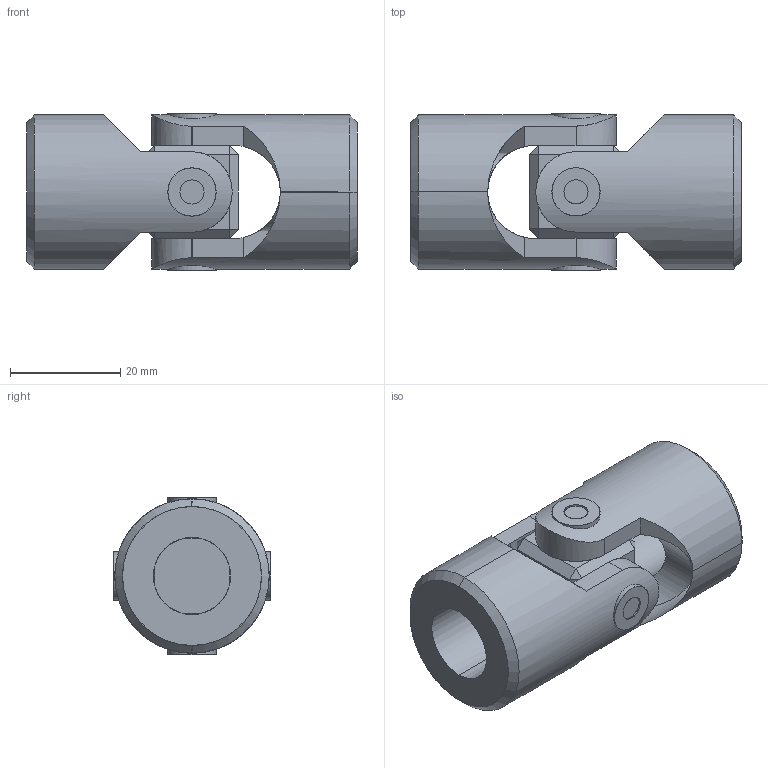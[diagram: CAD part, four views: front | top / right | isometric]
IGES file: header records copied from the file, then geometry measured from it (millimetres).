
Start section: SolidWorks IGES file using analytic representation for surfaces
Global section: file name: C:\Users\IanO\Desktop\R3690_v2\R3690_v2_20231020_IGES\R3690.014-RB.igs; native system: SolidWorks 2019; preprocessor: SolidWorks 2019; author: IanO; date: 231020.152216; units: millimetre
Bounding box: 60 x 28.56 x 28.56 mm (x, y, z)
Surface area: 12462.4 mm2 (no closed solid volume)
Topology: 0 solids, 0 shells, 104 faces, 2156 edges, 2156 vertices
Faces by surface type: bspline 56, revolution 48
